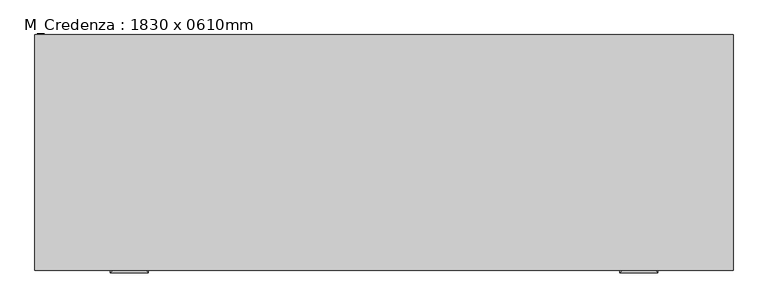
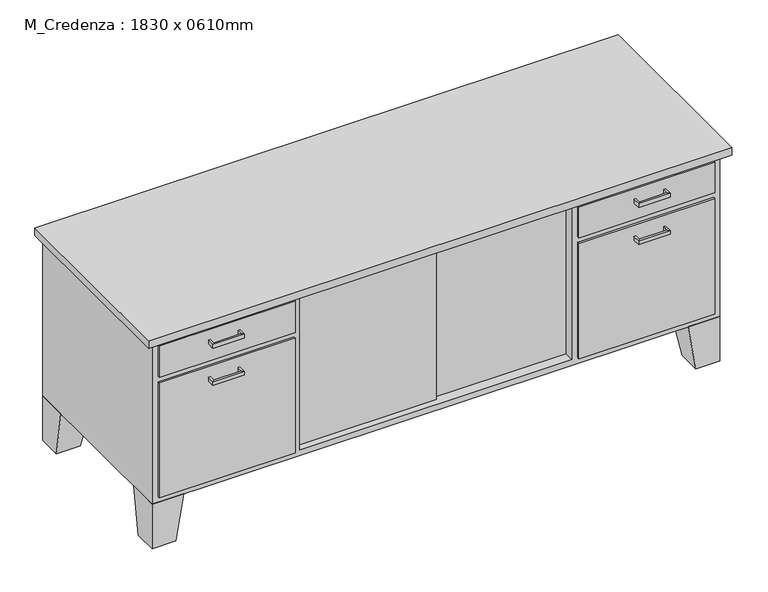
"""IFC4 building model written with IfcOpenShell, lengths in millimetres: furniture geometry, M_Credenza : 1830 x 0610mm."""

from ifc_helpers import new_model, si_unit, frame, origin, place, context, project, spatial, polyline, outline, extrude, faceted_brep, source, transform, mapped, element, save


def m_credenza_1830_x_0610mm_1080a9db(model_context):
    return source(origin(), model_context, "Body", "SolidModel", [
        extrude(outline(polyline([(532.0023176, -267.0714583), (46.8442623, -267.0714583), (46.8442623, -254.7714583), (532.0023176, -254.7714583), (532.0023176, -267.0714583)])), frame((0.0, 0.0, 171.45), z_axis=(0.0, 0.0, 1.0), x_axis=(1.0, 0.0, 0.0)), (0.0, 0.0, 1.0), 518.1),
        extrude(outline(polyline([(73.6254475, -279.7714583), (-378.9057377, -279.7714583), (-378.9057377, -267.0714583), (73.6254475, -267.0714583), (73.6254475, -279.7714583)])), frame((0.0, 0.0, 171.45), z_axis=(0.0, 0.0, 1.0), x_axis=(1.0, 0.0, 0.0)), (0.0, 0.0, 1.0), 518.1),
        faceted_brep([(872.9442623, 309.5803279, 152.4), (872.9442623, 207.9803279, 152.4), (974.5442623, 207.9803279, 152.4), (974.5442623, 309.5803279, 152.4), (898.3442623, 309.5803279, 0.0), (974.5442623, 309.5803279, 0.0), (974.5442623, 233.3803279, 0.0), (898.3442623, 233.3803279, 0.0)], [[[0, 1, 2, 3]], [[4, 5, 6, 7]], [[4, 7, 1, 0]], [[7, 6, 2, 1]], [[6, 5, 3, 2]], [[5, 4, 0, 3]]]),
        extrude(outline(polyline([(955.4942623, -306.3696721), (517.0442623, -306.3696721), (517.0442623, -300.0196721), (955.4942623, -300.0196721), (955.4942623, -306.3696721)])), frame((0.0, 0.0, 584.2), z_axis=(0.0, 0.0, 1.0), x_axis=(1.0, 0.0, 0.0)), (0.0, 0.0, 1.0), 105.35),
        extrude(outline(polyline([(955.4942623, -306.3696721), (517.0442623, -306.3696721), (517.0442623, -300.0196721), (955.4942623, -300.0196721), (955.4942623, -306.3696721)])), frame((0.0, 0.0, 171.45), z_axis=(0.0, 0.0, 1.0), x_axis=(1.0, 0.0, 0.0)), (0.0, 0.0, 1.0), 393.7),
        extrude(outline(polyline([(-397.9557377, -306.7696721), (-836.4057377, -306.7696721), (-836.4057377, -300.4196721), (-397.9557377, -300.4196721), (-397.9557377, -306.7696721)])), frame((0.0, 0.0, 581.6), z_axis=(0.0, 0.0, 1.0), x_axis=(1.0, 0.0, 0.0)), (0.0, 0.0, 1.0), 107.95),
        extrude(outline(polyline([(-397.9557377, -306.7696721), (-836.4057377, -306.7696721), (-836.4057377, -300.4196721), (-397.9557377, -300.4196721), (-397.9557377, -306.7696721)])), frame((0.0, 0.0, 171.45), z_axis=(0.0, 0.0, 1.0), x_axis=(1.0, 0.0, 0.0)), (0.0, 0.0, 1.0), 391.1),
        faceted_brep([(-753.8557377, -300.4196721, 152.4), (-753.8557377, -198.8196721, 152.4), (-855.4557377, -198.8196721, 152.4), (-855.4557377, -300.4196721, 152.4), (-779.2557377, -300.4196721, 0.0), (-855.4557377, -300.4196721, 0.0), (-855.4557377, -224.2196721, 0.0), (-779.2557377, -224.2196721, 0.0)], [[[0, 1, 2, 3]], [[4, 5, 6, 7]], [[4, 7, 1, 0]], [[7, 6, 2, 1]], [[6, 5, 3, 2]], [[5, 4, 0, 3]]]),
        faceted_brep([(-753.8557377, 309.5803279, 152.4), (-855.4557377, 309.5803279, 152.4), (-855.4557377, 207.9803279, 152.4), (-753.8557377, 207.9803279, 152.4), (-779.2557377, 309.5803279, 0.0), (-779.2557377, 233.3803279, 0.0), (-855.4557377, 233.3803279, 0.0), (-855.4557377, 309.5803279, 0.0)], [[[0, 1, 2, 3]], [[4, 5, 6, 7]], [[4, 7, 1, 0]], [[7, 6, 2, 1]], [[6, 5, 3, 2]], [[5, 4, 0, 3]]]),
        faceted_brep([(872.9442623, -300.4196721, 152.4), (974.5442623, -300.4196721, 152.4), (974.5442623, -198.8196721, 152.4), (872.9442623, -198.8196721, 152.4), (898.3442623, -300.4196721, 0.0), (898.3442623, -224.2196721, 0.0), (974.5442623, -224.2196721, 0.0), (974.5442623, -300.4196721, 0.0)], [[[0, 1, 2, 3]], [[4, 5, 6, 7]], [[4, 7, 1, 0]], [[7, 6, 2, 1]], [[6, 5, 3, 2]], [[5, 4, 0, 3]]]),
        faceted_brep([(974.5442623, 309.5803279, 708.6), (-855.4557377, 309.5803279, 708.6), (-855.4557377, -300.4196721, 708.6), (974.5442623, -300.4196721, 708.6), (974.5442623, 309.5803279, 152.4), (974.5442623, -300.4196721, 152.4), (-855.4557377, -300.4196721, 152.4), (-855.4557377, 309.5803279, 152.4), (-378.9057377, -300.4196721, 689.55), (497.9942623, -300.4196721, 689.55), (497.9942623, -300.4196721, 171.45), (-378.9057377, -300.4196721, 171.45), (497.9942623, 290.3303279, 689.55), (-378.9057377, 290.3303279, 689.55), (-378.9057377, 290.3303279, 171.45), (497.9942623, 290.3303279, 171.45)], [[[0, 1, 2, 3]], [[4, 5, 6, 7]], [[1, 0, 4, 7]], [[2, 1, 7, 6]], [[3, 2, 6, 5], [8, 9, 10, 11]], [[0, 3, 5, 4]], [[12, 13, 14, 15]], [[13, 12, 9, 8]], [[14, 13, 8, 11]], [[15, 14, 11, 10]], [[12, 15, 10, 9]]]),
        extrude(outline(polyline([(999.9442623, 309.5803279), (999.9442623, -325.8196721), (-880.8557377, -325.8196721), (-880.8557377, 309.5803279), (999.9442623, 309.5803279)])), frame((0.0, 0.0, 708.6), z_axis=(0.0, 0.0, 1.0), x_axis=(1.0, 0.0, 0.0)), (0.0, 0.0, 1.0), 25.4),
        faceted_brep([(-671.1557377, -306.7696721, 527.05), (-671.1557377, -306.7696721, 514.35), (-677.5057377, -306.7696721, 514.35), (-677.5057377, -306.7696721, 527.05), (-671.1557377, -325.8196721, 527.05), (-671.1557377, -325.8196721, 514.35), (-677.5057377, -332.1696721, 514.35), (-677.5057377, -332.1696721, 527.05), (-582.2557377, -325.8196721, 527.05), (-582.2557377, -325.8196721, 514.35), (-575.9057377, -332.1696721, 514.35), (-575.9057377, -332.1696721, 527.05), (-582.2557377, -306.7696721, 527.05), (-575.9057377, -306.7696721, 527.05), (-575.9057377, -306.7696721, 514.35), (-582.2557377, -306.7696721, 514.35)], [[[0, 1, 2, 3]], [[1, 0, 4, 5]], [[2, 1, 5, 6]], [[3, 2, 6, 7]], [[0, 3, 7, 4]], [[5, 4, 8, 9]], [[6, 5, 9, 10]], [[7, 6, 10, 11]], [[4, 7, 11, 8]], [[12, 13, 14, 15]], [[9, 8, 12, 15]], [[10, 9, 15, 14]], [[11, 10, 14, 13]], [[8, 11, 13, 12]]]),
        faceted_brep([(-671.1557377, -306.7696721, 654.05), (-671.1557377, -306.7696721, 641.35), (-677.5057377, -306.7696721, 641.35), (-677.5057377, -306.7696721, 654.05), (-671.1557377, -325.8196721, 654.05), (-671.1557377, -325.8196721, 641.35), (-677.5057377, -332.1696721, 641.35), (-677.5057377, -332.1696721, 654.05), (-582.2557377, -325.8196721, 654.05), (-582.2557377, -325.8196721, 641.35), (-575.9057377, -332.1696721, 641.35), (-575.9057377, -332.1696721, 654.05), (-582.2557377, -306.7696721, 654.05), (-575.9057377, -306.7696721, 654.05), (-575.9057377, -306.7696721, 641.35), (-582.2557377, -306.7696721, 641.35)], [[[0, 1, 2, 3]], [[1, 0, 4, 5]], [[2, 1, 5, 6]], [[3, 2, 6, 7]], [[0, 3, 7, 4]], [[5, 4, 8, 9]], [[6, 5, 9, 10]], [[7, 6, 10, 11]], [[4, 7, 11, 8]], [[12, 13, 14, 15]], [[9, 8, 12, 15]], [[10, 9, 15, 14]], [[11, 10, 14, 13]], [[8, 11, 13, 12]]]),
        faceted_brep([(701.3442623, -306.7696721, 654.1373112), (701.3442623, -306.7696721, 641.4373112), (694.9942623, -306.7696721, 641.4373112), (694.9942623, -306.7696721, 654.1373112), (701.3442623, -325.8196721, 654.1373112), (701.3442623, -325.8196721, 641.4373112), (694.9942623, -332.1696721, 641.4373112), (694.9942623, -332.1696721, 654.1373112), (790.2442623, -325.8196721, 654.1373112), (790.2442623, -325.8196721, 641.4373112), (796.5942623, -332.1696721, 641.4373112), (796.5942623, -332.1696721, 654.1373112), (790.2442623, -306.7696721, 654.1373112), (796.5942623, -306.7696721, 654.1373112), (796.5942623, -306.7696721, 641.4373112), (790.2442623, -306.7696721, 641.4373112)], [[[0, 1, 2, 3]], [[1, 0, 4, 5]], [[2, 1, 5, 6]], [[3, 2, 6, 7]], [[0, 3, 7, 4]], [[5, 4, 8, 9]], [[6, 5, 9, 10]], [[7, 6, 10, 11]], [[4, 7, 11, 8]], [[12, 13, 14, 15]], [[9, 8, 12, 15]], [[10, 9, 15, 14]], [[11, 10, 14, 13]], [[8, 11, 13, 12]]]),
        faceted_brep([(701.3442623, -306.7696721, 527.05), (701.3442623, -306.7696721, 514.35), (694.9942623, -306.7696721, 514.35), (694.9942623, -306.7696721, 527.05), (701.3442623, -325.8196721, 527.05), (701.3442623, -325.8196721, 514.35), (694.9942623, -332.1696721, 514.35), (694.9942623, -332.1696721, 527.05), (790.2442623, -325.8196721, 527.05), (790.2442623, -325.8196721, 514.35), (796.5942623, -332.1696721, 514.35), (796.5942623, -332.1696721, 527.05), (790.2442623, -306.7696721, 527.05), (796.5942623, -306.7696721, 527.05), (796.5942623, -306.7696721, 514.35), (790.2442623, -306.7696721, 514.35)], [[[0, 1, 2, 3]], [[1, 0, 4, 5]], [[2, 1, 5, 6]], [[3, 2, 6, 7]], [[0, 3, 7, 4]], [[5, 4, 8, 9]], [[6, 5, 9, 10]], [[7, 6, 10, 11]], [[4, 7, 11, 8]], [[12, 13, 14, 15]], [[9, 8, 12, 15]], [[10, 9, 15, 14]], [[11, 10, 14, 13]], [[8, 11, 13, 12]]]),
    ])


if __name__ == "__main__":
    model = new_model("IFC4")
    model_context = context("Model", 3, world=origin())
    ifc_project = project(units=[si_unit("LENGTHUNIT", "METRE", prefix="MILLI")], contexts=[model_context])
    site = spatial("IfcSite", under=ifc_project)
    building = spatial("IfcBuilding", under=site)
    placement = place(None, origin())
    m_credenza_1830_x_0610mm_shape = m_credenza_1830_x_0610mm_1080a9db(model_context)
    element("IfcFurniture", 1, ObjectType="M_Credenza : 1830 x 0610mm", at=placement, inside=building, context=model_context, shape_type="MappedRepresentation", body=[
        mapped(m_credenza_1830_x_0610mm_shape, transform((0.0, 0.0, 0.0), x_axis=(1.0, 0.0, 0.0), y_axis=(0.0, 1.0, 0.0), z_axis=(0.0, 0.0, 1.0))),
    ])
    save(model, "model.ifc")
